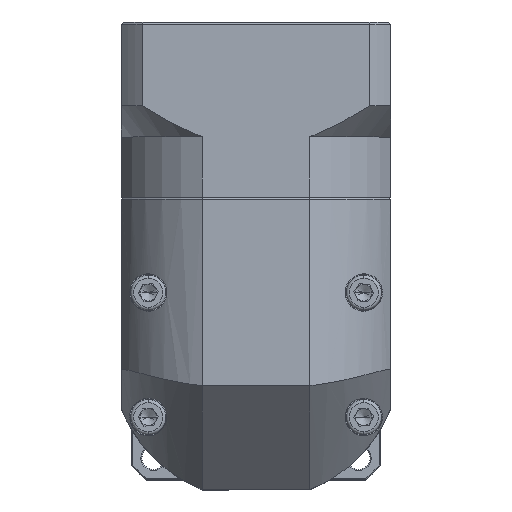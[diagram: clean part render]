
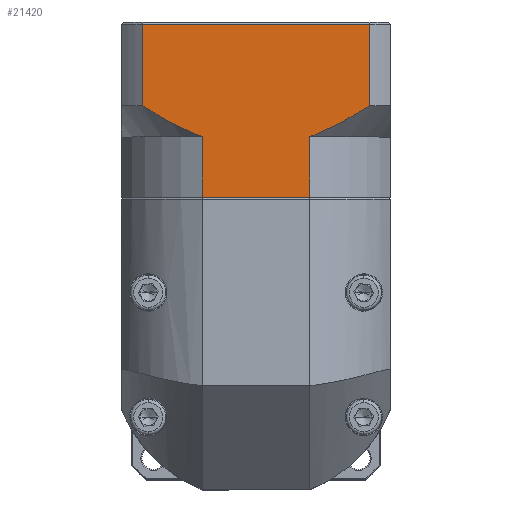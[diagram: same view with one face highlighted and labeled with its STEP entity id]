
A CAD part, top view. The second image highlights one B-rep face of the part: STEP entity #21420.
In plain terms, the highlighted planar face has unit normal (0, 0, 1).
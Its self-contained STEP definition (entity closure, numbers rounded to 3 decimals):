
#454 = EDGE_CURVE ( 'NONE', #17647, #97719, #76955, .T. ) ;
#583 = ORIENTED_EDGE ( 'NONE', *, *, #454, .T. ) ;
#1310 = CARTESIAN_POINT ( 'NONE',  ( -66.073, 87.482, 62.31 ) ) ;
#2090 = CARTESIAN_POINT ( 'NONE',  ( -40.093, 87.482, 62.31 ) ) ;
#3237 = CARTESIAN_POINT ( 'NONE',  ( -66.073, 87.482, 62.31 ) ) ;
#3289 = CARTESIAN_POINT ( 'NONE',  ( -25.697, 94.982, 62.31 ) ) ;
#5616 = B_SPLINE_CURVE_WITH_KNOTS ( 'NONE', 3,
 ( #91143, #90392, #11035, #72579, #109074, #11828, #72957, #3237 ),
 .UNSPECIFIED., .F., .F.,
 ( 4, 2, 2, 4 ),
 ( 0.058, 0.062, 0.066, 0.074 ),
 .UNSPECIFIED. ) ;
#7490 = EDGE_CURVE ( 'NONE', #42184, #97719, #96337, .T. ) ;
#9613 = CARTESIAN_POINT ( 'NONE',  ( -40.093, 72.982, 62.31 ) ) ;
#9826 = FACE_OUTER_BOUND ( 'NONE', #76390, .T. ) ;
#10875 = DIRECTION ( 'NONE',  ( 1., 0., 0. ) ) ;
#11035 = CARTESIAN_POINT ( 'NONE',  ( -78.18, 93.533, 62.31 ) ) ;
#11828 = CARTESIAN_POINT ( 'NONE',  ( -71.063, 89.569, 62.31 ) ) ;
#12570 = VERTEX_POINT ( 'NONE', #61736 ) ;
#16938 = CARTESIAN_POINT ( 'NONE',  ( -39.451, 87.72, 62.31 ) ) ;
#17647 = VERTEX_POINT ( 'NONE', #78365 ) ;
#17669 = CARTESIAN_POINT ( 'NONE',  ( -40.093, 87.482, 62.31 ) ) ;
#17917 = VECTOR ( 'NONE', #103275, 1000. ) ;
#18741 = CARTESIAN_POINT ( 'NONE',  ( -85.583, 72.982, 62.31 ) ) ;
#19637 = CARTESIAN_POINT ( 'NONE',  ( -25.697, 94.982, 62.31 ) ) ;
#20680 = LINE ( 'NONE', #102487, #17917 ) ;
#21186 = ORIENTED_EDGE ( 'NONE', *, *, #79058, .F. ) ;
#21420 = ADVANCED_FACE ( 'NONE', ( #9826 ), #24419, .F. ) ;
#21485 = VERTEX_POINT ( 'NONE', #9613 ) ;
#24419 = PLANE ( 'NONE',  #93418 ) ;
#24960 = CARTESIAN_POINT ( 'NONE',  ( -66.073, 87.482, 62.31 ) ) ;
#25578 = CARTESIAN_POINT ( 'NONE',  ( -85.583, 115.182, 62.31 ) ) ;
#26203 = CARTESIAN_POINT ( 'NONE',  ( -36.926, 88.772, 62.31 ) ) ;
#27306 = LINE ( 'NONE', #18741, #81152 ) ;
#28136 = CARTESIAN_POINT ( 'NONE',  ( -38.812, 87.973, 62.31 ) ) ;
#33359 = VERTEX_POINT ( 'NONE', #78762 ) ;
#34753 = DIRECTION ( 'NONE',  ( -1., 0., 0. ) ) ;
#35059 = CARTESIAN_POINT ( 'NONE',  ( -30.279, 92.133, 62.31 ) ) ;
#39370 = CARTESIAN_POINT ( 'NONE',  ( -25.697, 87.482, 62.31 ) ) ;
#42184 = VERTEX_POINT ( 'NONE', #57786 ) ;
#45487 = VECTOR ( 'NONE', #51282, 1000. ) ;
#46232 = LINE ( 'NONE', #52219, #112785 ) ;
#46885 = CARTESIAN_POINT ( 'NONE',  ( -80.469, 94.982, 62.31 ) ) ;
#49209 = VECTOR ( 'NONE', #75348, 1000. ) ;
#50426 = ORIENTED_EDGE ( 'NONE', *, *, #65005, .F. ) ;
#51282 = DIRECTION ( 'NONE',  ( 0., 1., 0. ) ) ;
#51896 = DIRECTION ( 'NONE',  ( 0., 1., 0. ) ) ;
#52219 = CARTESIAN_POINT ( 'NONE',  ( -85.583, 114.682, 62.31 ) ) ;
#57786 = CARTESIAN_POINT ( 'NONE',  ( -25.697, 114.682, 62.31 ) ) ;
#58829 = ORIENTED_EDGE ( 'NONE', *, *, #59259, .T. ) ;
#59259 = EDGE_CURVE ( 'NONE', #42184, #12570, #46232, .T. ) ;
#61736 = CARTESIAN_POINT ( 'NONE',  ( -80.469, 114.682, 62.31 ) ) ;
#65005 = EDGE_CURVE ( 'NONE', #33359, #72589, #92604, .T. ) ;
#69069 = DIRECTION ( 'NONE',  ( 0., -1., 0. ) ) ;
#69961 = ORIENTED_EDGE ( 'NONE', *, *, #95923, .T. ) ;
#72579 = CARTESIAN_POINT ( 'NONE',  ( -75.845, 92.149, 62.31 ) ) ;
#72581 = CARTESIAN_POINT ( 'NONE',  ( -35.072, 89.623, 62.31 ) ) ;
#72589 = VERTEX_POINT ( 'NONE', #1310 ) ;
#72957 = CARTESIAN_POINT ( 'NONE',  ( -68.611, 88.424, 62.31 ) ) ;
#74238 = LINE ( 'NONE', #17669, #100602 ) ;
#75348 = DIRECTION ( 'NONE',  ( 0., -1., 0. ) ) ;
#76390 = EDGE_LOOP ( 'NONE', ( #98665, #58829, #21186, #104999, #50426, #69961, #88705, #583 ) ) ;
#76955 = B_SPLINE_CURVE_WITH_KNOTS ( 'NONE', 3,
 ( #2090, #16938, #28136, #107933, #26203, #72581, #114541, #35059, #96657, #19637 ),
 .UNSPECIFIED., .F., .F.,
 ( 4, 2, 2, 2, 4 ),
 ( 0.101, 0.103, 0.105, 0.109, 0.117 ),
 .UNSPECIFIED. ) ;
#78365 = CARTESIAN_POINT ( 'NONE',  ( -40.093, 87.482, 62.31 ) ) ;
#78762 = CARTESIAN_POINT ( 'NONE',  ( -66.073, 72.982, 62.31 ) ) ;
#79058 = EDGE_CURVE ( 'NONE', #88509, #12570, #20680, .T. ) ;
#79872 = EDGE_CURVE ( 'NONE', #17647, #21485, #74238, .T. ) ;
#81152 = VECTOR ( 'NONE', #10875, 1000. ) ;
#87478 = DIRECTION ( 'NONE',  ( 0., 0., -1. ) ) ;
#88509 = VERTEX_POINT ( 'NONE', #46885 ) ;
#88705 = ORIENTED_EDGE ( 'NONE', *, *, #79872, .F. ) ;
#90392 = CARTESIAN_POINT ( 'NONE',  ( -79.331, 94.248, 62.31 ) ) ;
#91143 = CARTESIAN_POINT ( 'NONE',  ( -80.469, 94.982, 62.31 ) ) ;
#92604 = LINE ( 'NONE', #24960, #45487 ) ;
#93123 = EDGE_CURVE ( 'NONE', #88509, #72589, #5616, .T. ) ;
#93418 = AXIS2_PLACEMENT_3D ( 'NONE', #25578, #87478, #51896 ) ;
#95923 = EDGE_CURVE ( 'NONE', #33359, #21485, #27306, .T. ) ;
#96337 = LINE ( 'NONE', #39370, #49209 ) ;
#96657 = CARTESIAN_POINT ( 'NONE',  ( -27.965, 93.52, 62.31 ) ) ;
#97719 = VERTEX_POINT ( 'NONE', #3289 ) ;
#98665 = ORIENTED_EDGE ( 'NONE', *, *, #7490, .F. ) ;
#100602 = VECTOR ( 'NONE', #69069, 1000. ) ;
#102487 = CARTESIAN_POINT ( 'NONE',  ( -80.469, 87.482, 62.31 ) ) ;
#103275 = DIRECTION ( 'NONE',  ( 0., 1., 0. ) ) ;
#104999 = ORIENTED_EDGE ( 'NONE', *, *, #93123, .T. ) ;
#107933 = CARTESIAN_POINT ( 'NONE',  ( -37.55, 88.498, 62.31 ) ) ;
#109074 = CARTESIAN_POINT ( 'NONE',  ( -74.659, 91.479, 62.31 ) ) ;
#112785 = VECTOR ( 'NONE', #34753, 1000. ) ;
#114541 = CARTESIAN_POINT ( 'NONE',  ( -33.86, 90.228, 62.31 ) ) ;
